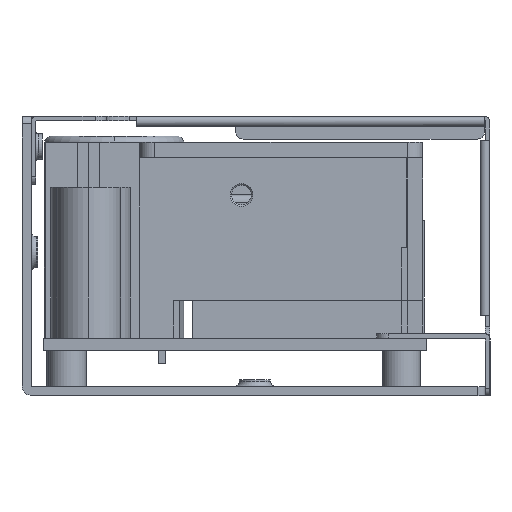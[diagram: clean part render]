
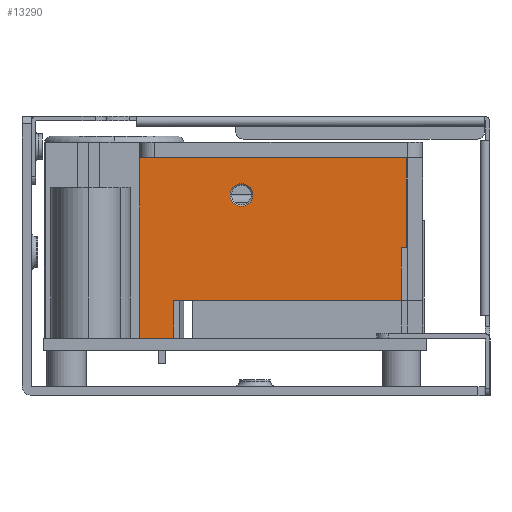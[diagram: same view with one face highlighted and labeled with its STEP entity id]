
A CAD part, left-side view. The second image highlights one B-rep face of the part: STEP entity #13290.
In plain terms, the highlighted planar face has unit normal (-1, 0, 0) as drawn and (1, 0, 0) by its records, which use the part's own axes.
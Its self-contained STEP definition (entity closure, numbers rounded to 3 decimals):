
#6290=CARTESIAN_POINT('',(171.5,156.15,-2.1));
#6300=VERTEX_POINT('',#6290);
#6560=CARTESIAN_POINT('',(171.5,125.25,0.));
#6570=DIRECTION('',(0.,0.,-1.));
#6580=VECTOR('',#6570,1.);
#6590=LINE('',#6560,#6580);
#6600=CARTESIAN_POINT('',(171.5,125.25,-21.));
#6610=VERTEX_POINT('',#6600);
#6620=CARTESIAN_POINT('',(171.5,125.25,-26.));
#6630=VERTEX_POINT('',#6620);
#6640=EDGE_CURVE('',#6610,#6630,#6590,.T.);
#7080=CARTESIAN_POINT('',(171.5,120.75,-26.));
#7090=VERTEX_POINT('',#7080);
#7120=CARTESIAN_POINT('',(171.5,0.,-26.));
#7130=DIRECTION('',(0.,-1.,0.));
#7140=VECTOR('',#7130,1.);
#7150=LINE('',#7120,#7140);
#7160=EDGE_CURVE('',#6630,#7090,#7150,.T.);
#7740=CARTESIAN_POINT('',(171.5,0.,-2.1));
#7750=DIRECTION('',(0.,1.,0.));
#7760=VECTOR('',#7750,1.);
#7770=LINE('',#7740,#7760);
#7780=CARTESIAN_POINT('',(171.5,120.75,-2.1));
#7790=VERTEX_POINT('',#7780);
#7800=EDGE_CURVE('',#7790,#6300,#7770,.T.);
#9390=CARTESIAN_POINT('',(171.5,156.15,-21.));
#9400=VERTEX_POINT('',#9390);
#9430=CARTESIAN_POINT('',(171.5,156.15,0.));
#9440=DIRECTION('',(0.,0.,-1.));
#9450=VECTOR('',#9440,1.);
#9460=LINE('',#9430,#9450);
#9470=EDGE_CURVE('',#6300,#9400,#9460,.T.);
#12910=CARTESIAN_POINT('',(171.5,156.15,0.));
#12920=DIRECTION('',(1.,0.,0.));
#12930=DIRECTION('',(0.,-1.,0.));
#12940=AXIS2_PLACEMENT_3D('',#12910,#12920,#12930);
#12950=PLANE('',#12940);
#12960=CARTESIAN_POINT('',(171.5,134.25,-7.));
#12970=DIRECTION('',(1.,0.,0.));
#12980=DIRECTION('',(0.,-1.,0.));
#12990=AXIS2_PLACEMENT_3D('',#12960,#12970,#12980);
#13000=CIRCLE('',#12990,1.5);
#13010=CARTESIAN_POINT('',(171.5,132.75,-7.));
#13020=VERTEX_POINT('',#13010);
#13030=CARTESIAN_POINT('',(171.5,135.75,-7.));
#13040=VERTEX_POINT('',#13030);
#13050=EDGE_CURVE('',#13020,#13040,#13000,.T.);
#13060=ORIENTED_EDGE('',*,*,#13050,.F.);
#13070=EDGE_CURVE('',#13040,#13020,#13000,.T.);
#13080=ORIENTED_EDGE('',*,*,#13070,.F.);
#13090=EDGE_LOOP('',(#13080,#13060));
#13100=FACE_BOUND('',#13090,.T.);
#13110=ORIENTED_EDGE('',*,*,#9470,.F.);
#13120=CARTESIAN_POINT('',(171.5,0.,-21.));
#13130=DIRECTION('',(0.,-1.,0.));
#13140=VECTOR('',#13130,1.);
#13150=LINE('',#13120,#13140);
#13160=EDGE_CURVE('',#9400,#6610,#13150,.T.);
#13170=ORIENTED_EDGE('',*,*,#13160,.F.);
#13180=ORIENTED_EDGE('',*,*,#6640,.F.);
#13190=ORIENTED_EDGE('',*,*,#7160,.F.);
#13200=CARTESIAN_POINT('',(171.5,120.75,
19.443));
#13210=DIRECTION('',(0.,0.,-1.));
#13220=VECTOR('',#13210,1.);
#13230=LINE('',#13200,#13220);
#13240=EDGE_CURVE('',#7790,#7090,#13230,.T.);
#13250=ORIENTED_EDGE('',*,*,#13240,.T.);
#13260=ORIENTED_EDGE('',*,*,#7800,.F.);
#13270=EDGE_LOOP('',(#13260,#13250,#13190,#13180,#13170,#13110));
#13280=FACE_OUTER_BOUND('',#13270,.T.);
#13290=ADVANCED_FACE('',(#13100,#13280),#12950,.T.);
